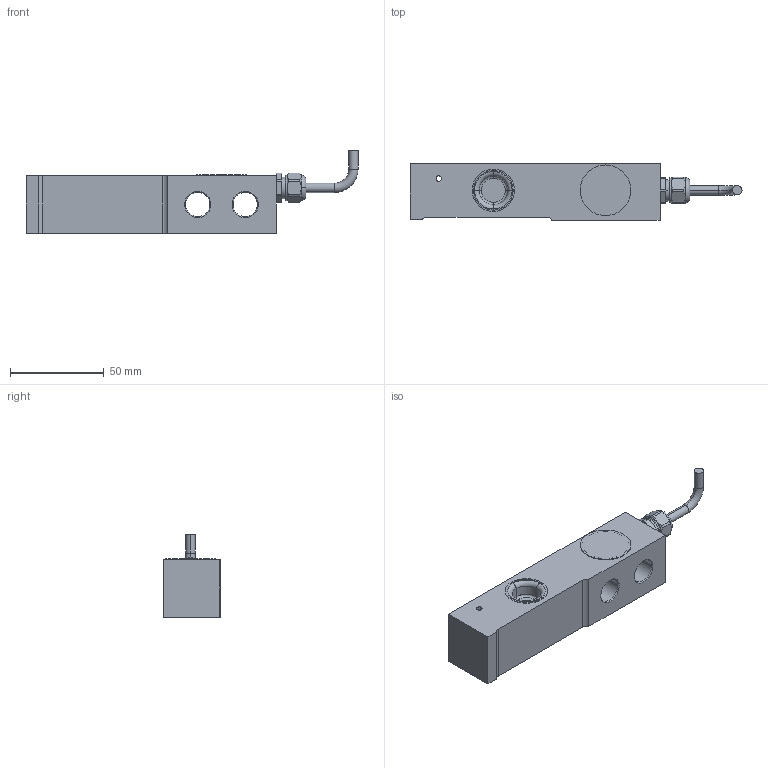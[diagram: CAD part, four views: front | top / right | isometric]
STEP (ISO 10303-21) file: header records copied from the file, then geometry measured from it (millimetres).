
FILE_DESCRIPTION((''),'2;1');
FILE_NAME('0745-1100KG_ASM_1_SW0001','2014-07-30T',('wang-379'),(''),'PRO/ENGINEER BY PARAMETRIC TECHNOLOGY CORPORATION, 2013320','PRO/ENGINEER BY PARAMETRIC TECHNOLOGY CORPORATION, 2013320','');
FILE_SCHEMA(('CONFIG_CONTROL_DESIGN'));
Length unit declared in the file: millimetre
Products named in the file (1): 0745-1100KG_ASM_1_SW0001
Bounding box: 177.09 x 30.23 x 44.43 mm (x, y, z)
Volume: 95355.7 mm3; surface area: 29687.1 mm2
Topology: 3 solids, 3 shells, 167 faces, 456 edges, 302 vertices
Faces by surface type: cylinder 57, plane 46, cone 38, torus 26
Entity records: 5906 total; most frequent: CARTESIAN_POINT 1435, DIRECTION 1007, ORIENTED_EDGE 912, EDGE_CURVE 456, AXIS2_PLACEMENT_3D 425, VERTEX_POINT 302, CIRCLE 258, EDGE_LOOP 186
